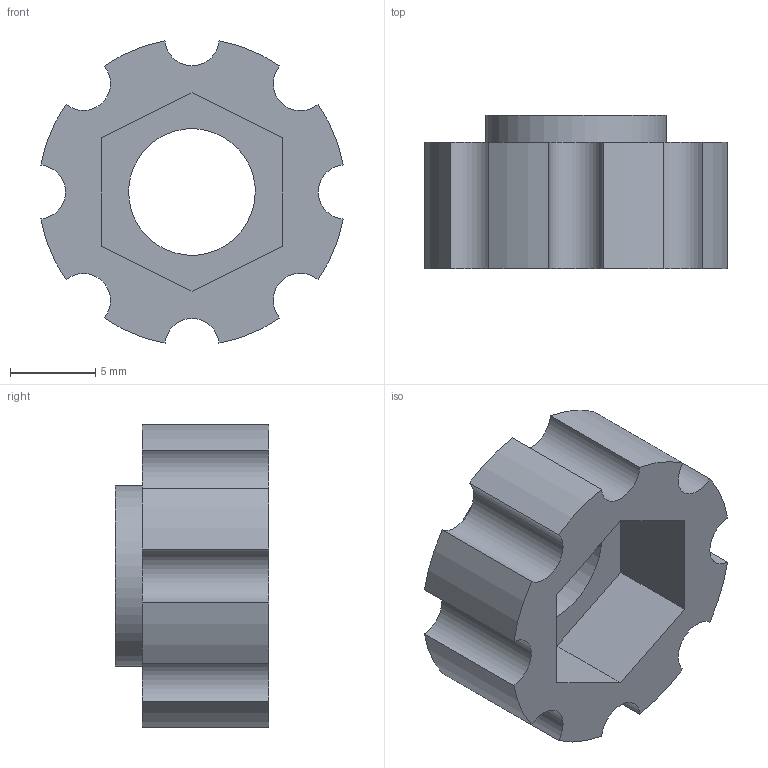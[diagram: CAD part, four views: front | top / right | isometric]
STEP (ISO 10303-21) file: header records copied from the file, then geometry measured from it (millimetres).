
FILE_DESCRIPTION(('STEP AP203'), '1');
FILE_NAME('M6', '', ('UNSPECIFIED'), ('UNSPECIFIED'), 'ASCON STEP Converter 1.3', 'ASCON Math Kernel', '');
FILE_SCHEMA(('CONFIG_CONTROL_DESIGN'));
Length unit declared in the file: millimetre
Bounding box: 17.74 x 9.01 x 17.74 mm (x, y, z)
Volume: 1136.9 mm3; surface area: 1206.3 mm2
Topology: 1 solids, 1 shells, 28 faces, 72 edges, 48 vertices
Faces by surface type: cylinder 18, bspline 10
Full cylindrical faces by diameter (mm): 7.42 x1, 10.6 x1
Entity records: 1142 total; most frequent: CARTESIAN_POINT 201, ORIENTED_EDGE 140, DIRECTION 136, EDGE_CURVE 70, AXIS2_PLACEMENT_3D 51, VERTEX_POINT 48, EDGE_LOOP 34, LINE 34
